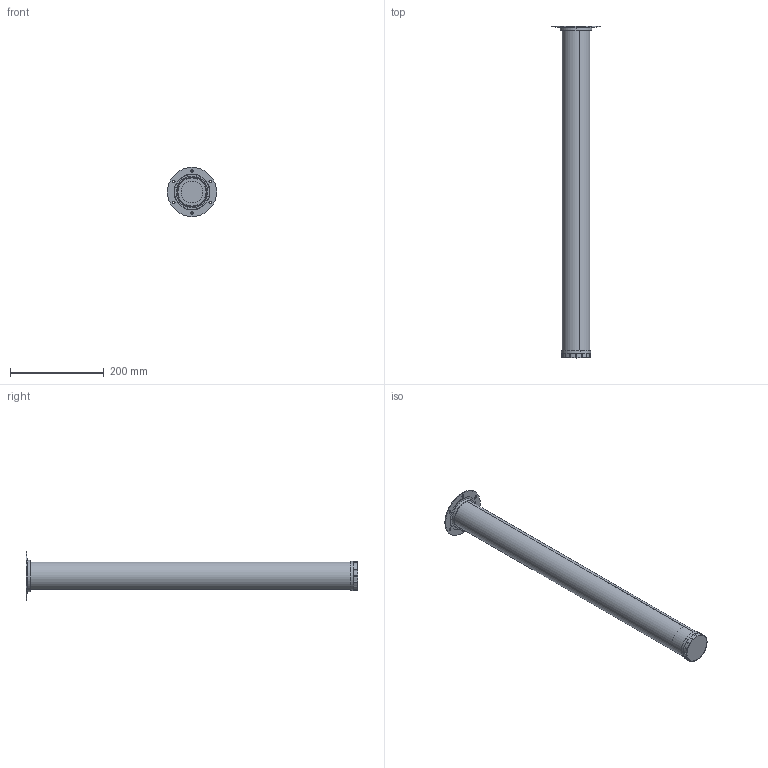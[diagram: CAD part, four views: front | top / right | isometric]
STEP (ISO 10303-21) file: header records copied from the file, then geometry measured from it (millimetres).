
FILE_DESCRIPTION (( 'STEP AP203' ), '1' );
FILE_NAME ('STRONG Stolová noha 710_60 mm_401675_290668_290681_290678_290683_290675_290672_290666_290670_485039.STEP', '2023-06-23T07:56:44', ( '' ), ( '' ), 'SwSTEP 2.0', 'SolidWorks 2019', '' );
FILE_SCHEMA (( 'CONFIG_CONTROL_DESIGN' ));
Length unit declared in the file: millimetre
Products named in the file (4): Priruba; STRONG Rektifikaèní šroub s vložkou pro stolové nohy Strong prùmìr 60 mm_350418; Noha 710_60; STRONG Stolová noha 710_60 mm_401675_290668_290681_290678_290683_290675_290672_290666_290670_485039
Assembly tree (3 placements, depth 2):
  STRONG Stolová noha 710_60 mm_401675_290668_290681_290678_290683_290675_290672_290666_290670_485039
    Priruba
    Noha 710_60
    STRONG Rektifikaèní šroub s vložkou pro stolové nohy Strong prùmìr 60 mm_350418
Bounding box: 105 x 710 x 105 mm (x, y, z)
Volume: 259772.8 mm3; surface area: 299376.9 mm2
Topology: 3 solids, 3 shells, 120 faces, 277 edges, 172 vertices
Faces by surface type: cylinder 81, plane 31, torus 8
Entity records: 3919 total; most frequent: DIRECTION 725, CARTESIAN_POINT 575, ORIENTED_EDGE 554, AXIS2_PLACEMENT_3D 322, EDGE_CURVE 277, CIRCLE 196, VERTEX_POINT 172, EDGE_LOOP 145
